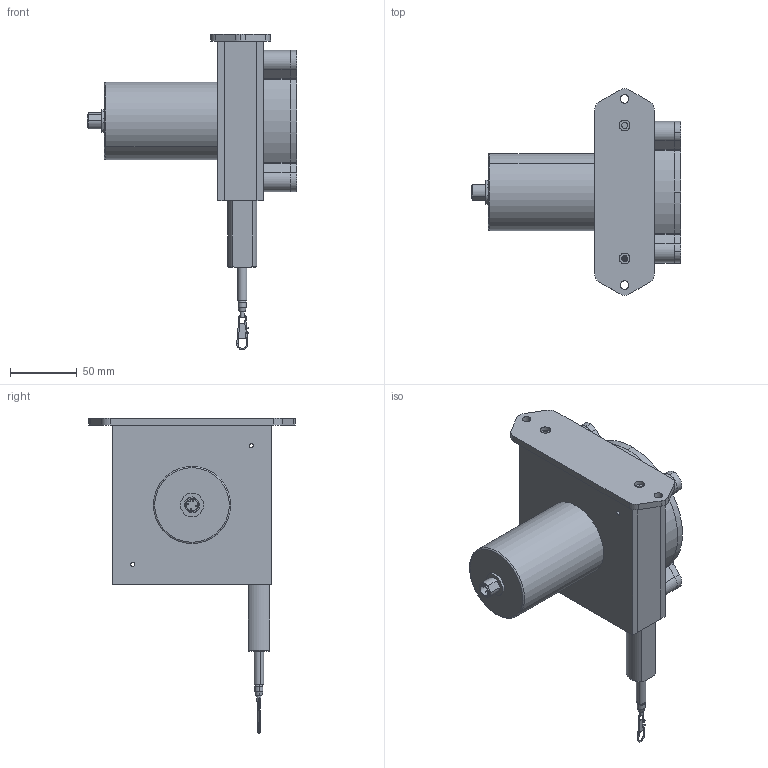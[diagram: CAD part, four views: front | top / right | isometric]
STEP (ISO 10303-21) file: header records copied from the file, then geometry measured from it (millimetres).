
FILE_DESCRIPTION (( 'STEP AP214' ), '1' );
FILE_NAME ('D8.3C1.0600.A113.0000.STEP', '2010-11-25T09:06:02', ( 'admin' ), ( 'Fritz Kübler GmbH' ), 'SwSTEP 2.0', 'SolidWorks 2009', '' );
FILE_SCHEMA (( 'AUTOMOTIVE_DESIGN' ));
Length unit declared in the file: millimetre
Products named in the file (1): D8.3C1.0600.A113.0000
Bounding box: 157.5 x 155 x 236.68 mm (x, y, z)
Surface area: 100165.3 mm2 (no closed solid volume)
Topology: 0 solids, 21 shells, 254 faces, 747 edges, 499 vertices
Faces by surface type: cylinder 127, plane 93, torus 15, cone 12, bspline 6, sphere 1
Entity records: 12199 total; most frequent: CARTESIAN_POINT 2674, DIRECTION 1478, ORIENTED_EDGE 1237, EDGE_CURVE 739, AXIS2_PLACEMENT_3D 573, VERTEX_POINT 498, VECTOR 332, LINE 332
